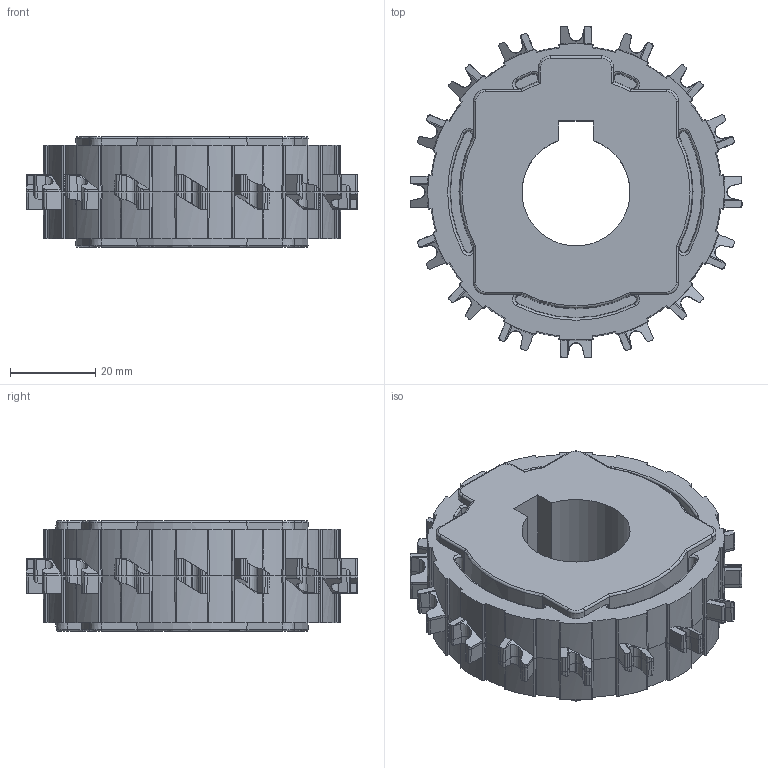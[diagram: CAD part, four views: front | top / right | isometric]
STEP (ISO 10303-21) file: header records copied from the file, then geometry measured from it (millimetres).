
FILE_DESCRIPTION(/* description */ (''),/* implementation_level */ '2;1');
FILE_NAME(/* name */ '1100-16t.stp',/* time_stamp */ '2021-09-14T15:32:41+08:00',/* author */ (''),/* organization */ (''),/* preprocessor_version */ 'ST-DEVELOPER v15',/* originating_system */ 'SIEMENS PLM Software NX 8.5',/* authorisation */ '');
FILE_SCHEMA (('AP203_CONFIGURATION_CONTROLLED_3D_DESIGN_OF_MECHANICAL_PARTS_AND_ASSEMBLIES_MIM_LF { 1 0 10303 403 2 1 2}'));
Length unit declared in the file: millimetre
Products named in the file (1): Admi1AA4AF6Eedld
Bounding box: 78 x 78 x 26 mm (x, y, z)
Volume: 76380.5 mm3; surface area: 20370.4 mm2
Topology: 1 solids, 1 shells, 870 faces, 2214 edges, 1348 vertices
Faces by surface type: plane 391, cone 372, cylinder 55, torus 52
Entity records: 26930 total; most frequent: CARTESIAN_POINT 5801, DIRECTION 4498, ORIENTED_EDGE 4428, EDGE_CURVE 2214, AXIS2_PLACEMENT_3D 1665, VERTEX_POINT 1348, LINE 1168, VECTOR 1168
